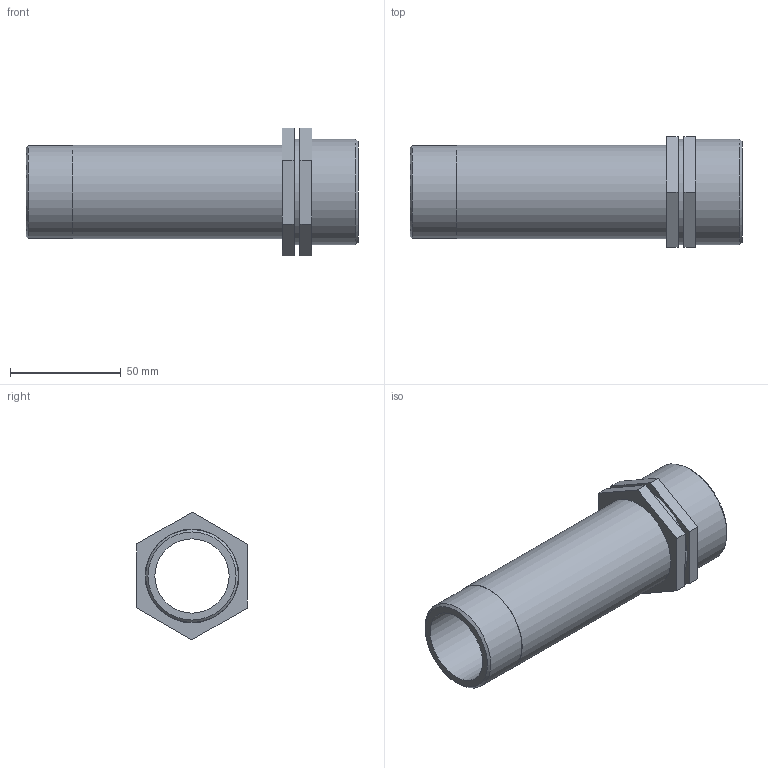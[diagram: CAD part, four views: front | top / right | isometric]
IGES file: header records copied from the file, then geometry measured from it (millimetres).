
Global section: file name: 051607015013_0516070150130A.ipt; native system: Autodesk Inventor 2015; preprocessor: unknown; author: KIM; date: 20170618.093325; units: millimetre
Bounding box: 150 x 50.08 x 57.73 mm (x, y, z)
Volume: 94384.1 mm3; surface area: 39646.1 mm2
Topology: 1 solids, 1 shells, 26 faces, 57 edges, 38 vertices
Faces by surface type: plane 19, cylinder 4, cone 2, revolution 1
Full cylindrical faces by diameter (mm): 41.91 x1, 42.227 x1, 47.803 x2
